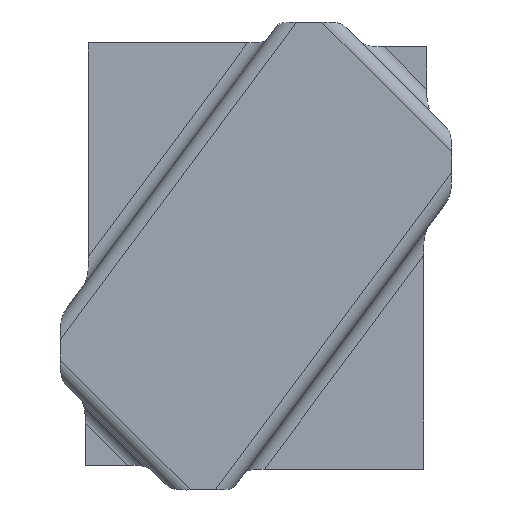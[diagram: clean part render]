
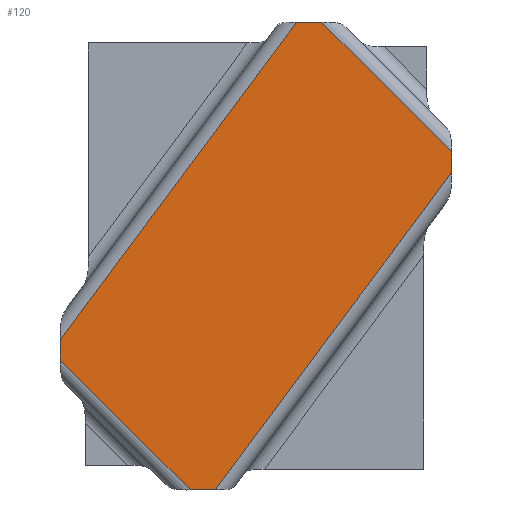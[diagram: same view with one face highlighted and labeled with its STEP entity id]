
A CAD part, top view. The second image highlights one B-rep face of the part: STEP entity #120.
In plain terms, the highlighted planar face has unit normal (0, 0, -1).
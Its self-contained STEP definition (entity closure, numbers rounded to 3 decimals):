
#53=CARTESIAN_POINT('Axis2P3D Location',(-51.728,38.494,64.979)) ;
#59=CARTESIAN_POINT('Control Point',(-51.728,77.788,64.979)) ;
#60=CARTESIAN_POINT('Control Point',(9.818,160.494,64.979)) ;
#61=CARTESIAN_POINT('Vertex',(-51.728,77.788,64.979)) ;
#63=CARTESIAN_POINT('Vertex',(9.818,160.494,64.979)) ;
#66=CARTESIAN_POINT('Line Origine',(-0.728,160.494,64.979)) ;
#70=CARTESIAN_POINT('Vertex',(16.446,160.494,64.979)) ;
#74=CARTESIAN_POINT('Control Point',(16.446,160.494,64.979)) ;
#75=CARTESIAN_POINT('Control Point',(50.272,126.668,64.979)) ;
#76=CARTESIAN_POINT('Vertex',(50.272,126.668,64.979)) ;
#79=CARTESIAN_POINT('Line Origine',(50.272,99.494,64.979)) ;
#83=CARTESIAN_POINT('Vertex',(50.272,121.237,64.979)) ;
#87=CARTESIAN_POINT('Control Point',(50.272,121.237,64.979)) ;
#88=CARTESIAN_POINT('Control Point',(-11.302,38.494,64.979)) ;
#89=CARTESIAN_POINT('Vertex',(-11.302,38.494,64.979)) ;
#92=CARTESIAN_POINT('Line Origine',(-0.728,38.494,64.979)) ;
#96=CARTESIAN_POINT('Vertex',(-17.902,38.494,64.979)) ;
#100=CARTESIAN_POINT('Control Point',(-51.728,72.32,64.979)) ;
#101=CARTESIAN_POINT('Control Point',(-17.902,38.494,64.979)) ;
#102=CARTESIAN_POINT('Vertex',(-51.728,72.32,64.979)) ;
#105=CARTESIAN_POINT('Line Origine',(-51.728,99.494,64.979)) ;
#54=DIRECTION('Axis2P3D Direction',(0.,0.,1.)) ;
#55=DIRECTION('Axis2P3D XDirection',(1.,0.,0.)) ;
#67=DIRECTION('Vector Direction',(1.,0.,0.)) ;
#80=DIRECTION('Vector Direction',(0.,1.,0.)) ;
#93=DIRECTION('Vector Direction',(1.,0.,0.)) ;
#106=DIRECTION('Vector Direction',(0.,1.,0.)) ;
#56=AXIS2_PLACEMENT_3D('Plane Axis2P3D',#53,#54,#55) ;
#111=ORIENTED_EDGE('',*,*,#65,.T.) ;
#112=ORIENTED_EDGE('',*,*,#72,.T.) ;
#113=ORIENTED_EDGE('',*,*,#78,.T.) ;
#114=ORIENTED_EDGE('',*,*,#85,.T.) ;
#115=ORIENTED_EDGE('',*,*,#91,.T.) ;
#116=ORIENTED_EDGE('',*,*,#98,.T.) ;
#117=ORIENTED_EDGE('',*,*,#104,.F.) ;
#118=ORIENTED_EDGE('',*,*,#109,.T.) ;
#68=VECTOR('Line Direction',#67,1.) ;
#81=VECTOR('Line Direction',#80,1.) ;
#94=VECTOR('Line Direction',#93,1.) ;
#107=VECTOR('Line Direction',#106,1.) ;
#120=ADVANCED_FACE('Offset.1',(#119),#57,.F.) ;
#58=B_SPLINE_CURVE_WITH_KNOTS('',1,(#59,#60),.UNSPECIFIED.,.F.,.U.,(2,2),(-51.547,51.547),.UNSPECIFIED.) ;
#73=B_SPLINE_CURVE_WITH_KNOTS('',1,(#74,#75),.UNSPECIFIED.,.F.,.U.,(2,2),(-23.919,23.919),.UNSPECIFIED.) ;
#86=B_SPLINE_CURVE_WITH_KNOTS('',1,(#87,#88),.UNSPECIFIED.,.F.,.U.,(2,2),(-51.57,51.57),.UNSPECIFIED.) ;
#99=B_SPLINE_CURVE_WITH_KNOTS('',1,(#100,#101),.UNSPECIFIED.,.F.,.U.,(2,2),(-23.919,23.919),.UNSPECIFIED.) ;
#65=EDGE_CURVE('',#62,#64,#58,.T.) ;
#72=EDGE_CURVE('',#64,#71,#69,.T.) ;
#78=EDGE_CURVE('',#71,#77,#73,.T.) ;
#85=EDGE_CURVE('',#77,#84,#82,.F.) ;
#91=EDGE_CURVE('',#84,#90,#86,.T.) ;
#98=EDGE_CURVE('',#90,#97,#95,.F.) ;
#104=EDGE_CURVE('',#103,#97,#99,.T.) ;
#109=EDGE_CURVE('',#103,#62,#108,.T.) ;
#110=EDGE_LOOP('',(#111,#112,#113,#114,#115,#116,#117,#118)) ;
#119=FACE_OUTER_BOUND('',#110,.T.) ;
#69=LINE('Line',#66,#68) ;
#82=LINE('Line',#79,#81) ;
#95=LINE('Line',#92,#94) ;
#108=LINE('Line',#105,#107) ;
#57=PLANE('',#56) ;
#62=VERTEX_POINT('',#61) ;
#64=VERTEX_POINT('',#63) ;
#71=VERTEX_POINT('',#70) ;
#77=VERTEX_POINT('',#76) ;
#84=VERTEX_POINT('',#83) ;
#90=VERTEX_POINT('',#89) ;
#97=VERTEX_POINT('',#96) ;
#103=VERTEX_POINT('',#102) ;
